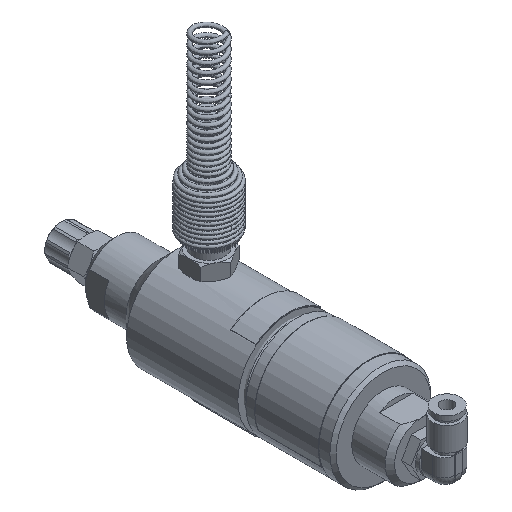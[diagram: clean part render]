
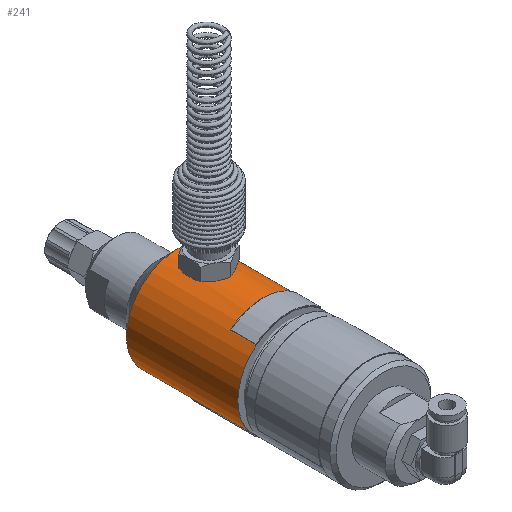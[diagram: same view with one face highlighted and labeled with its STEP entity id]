
A CAD part, isometric view. The second image highlights one B-rep face of the part: STEP entity #241.
In plain terms, the highlighted cylindrical face has radius 15.9 mm (diameter 31.8 mm), a full revolution.
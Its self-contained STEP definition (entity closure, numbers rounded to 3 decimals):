
#151=CARTESIAN_POINT('',(-15.9,0.0,0.0));
#152=VERTEX_POINT('',#151);
#153=CARTESIAN_POINT('',(0.0,0.0,0.0));
#154=DIRECTION('',(0.0,1.0,0.0));
#155=DIRECTION('',(1.0,0.0,0.0));
#156=AXIS2_PLACEMENT_3D('',#153,#154,#155);
#157=CIRCLE('',#156,15.9);
#158=EDGE_CURVE('',#152,#152,#157,.T.);
#174=CARTESIAN_POINT('',(0.0,0.0,0.0));
#175=DIRECTION('',(0.0,1.0,0.0));
#176=DIRECTION('',(1.0,0.0,0.0));
#177=AXIS2_PLACEMENT_3D('',#174,#175,#176);
#178=CYLINDRICAL_SURFACE('',#177,15.9);
#179=CARTESIAN_POINT('',(-15.9,35.1,0.0));
#180=VERTEX_POINT('',#179);
#181=CARTESIAN_POINT('',(0.0,35.1,0.0));
#182=DIRECTION('',(0.0,1.0,0.0));
#183=DIRECTION('',(1.0,0.0,0.0));
#184=AXIS2_PLACEMENT_3D('',#181,#182,#183);
#185=CIRCLE('',#184,15.9);
#186=EDGE_CURVE('',#180,#180,#185,.T.);
#187=ORIENTED_EDGE('',*,*,#186,.F.);
#188=EDGE_LOOP('',(#187));
#189=FACE_OUTER_BOUND('',#188,.T.);
#190=ORIENTED_EDGE('',*,*,#158,.T.);
#191=EDGE_LOOP('',(#190));
#192=FACE_BOUND('',#191,.T.);
#193=CARTESIAN_POINT('',(4.285,25.0,-15.312));
#194=VERTEX_POINT('',#193);
#195=CARTESIAN_POINT('',(-4.285,25.0,-15.312));
#196=VERTEX_POINT('',#195);
#197=CARTESIAN_POINT('',(4.285,25.0,-15.312));
#198=CARTESIAN_POINT('',(4.285,25.299,-15.312));
#199=CARTESIAN_POINT('',(4.225,25.885,-15.329));
#200=CARTESIAN_POINT('',(3.942,26.764,-15.405));
#201=CARTESIAN_POINT('',(3.482,27.55,-15.517));
#202=CARTESIAN_POINT('',(2.896,28.198,-15.639));
#203=CARTESIAN_POINT('',(2.171,28.731,-15.758));
#204=CARTESIAN_POINT('',(1.333,29.107,-15.852));
#205=CARTESIAN_POINT('',(0.44,29.293,-15.902));
#206=CARTESIAN_POINT('',(-0.439,29.293,-15.902));
#207=CARTESIAN_POINT('',(-1.334,29.107,-15.852));
#208=CARTESIAN_POINT('',(-2.172,28.731,-15.758));
#209=CARTESIAN_POINT('',(-2.896,28.198,-15.639));
#210=CARTESIAN_POINT('',(-3.482,27.55,-15.517));
#211=CARTESIAN_POINT('',(-3.942,26.762,-15.405));
#212=CARTESIAN_POINT('',(-4.225,25.885,-15.329));
#213=CARTESIAN_POINT('',(-4.285,25.298,-15.312));
#214=CARTESIAN_POINT('',(-4.285,25.0,-15.312));
#215=B_SPLINE_CURVE_WITH_KNOTS('',3,(#197,#198,#199,#200,#201,#202,#203,#204,#205,#206,#207,#208,#209,#210,#211,#212,#213,#214),.UNSPECIFIED.,.F.,.U.,(4,1,1,1,1,1,1,1,1,1,1,1,1,1,1,4),(0.0,0.067,0.133,0.2,0.267,0.333,0.4,0.467,0.533,0.6,0.667,0.733,0.8,0.867,0.933,1.0),.UNSPECIFIED.);
#216=EDGE_CURVE('',#194,#196,#215,.T.);
#217=ORIENTED_EDGE('',*,*,#216,.T.);
#218=CARTESIAN_POINT('',(-4.285,25.0,-15.312));
#219=CARTESIAN_POINT('',(-4.285,24.701,-15.312));
#220=CARTESIAN_POINT('',(-4.225,24.115,-15.329));
#221=CARTESIAN_POINT('',(-3.942,23.236,-15.405));
#222=CARTESIAN_POINT('',(-3.482,22.45,-15.517));
#223=CARTESIAN_POINT('',(-2.896,21.802,-15.639));
#224=CARTESIAN_POINT('',(-2.171,21.269,-15.758));
#225=CARTESIAN_POINT('',(-1.333,20.893,-15.852));
#226=CARTESIAN_POINT('',(-0.44,20.707,-15.902));
#227=CARTESIAN_POINT('',(0.439,20.707,-15.902));
#228=CARTESIAN_POINT('',(1.334,20.893,-15.852));
#229=CARTESIAN_POINT('',(2.172,21.269,-15.758));
#230=CARTESIAN_POINT('',(2.896,21.802,-15.639));
#231=CARTESIAN_POINT('',(3.482,22.45,-15.517));
#232=CARTESIAN_POINT('',(3.942,23.238,-15.405));
#233=CARTESIAN_POINT('',(4.225,24.115,-15.329));
#234=CARTESIAN_POINT('',(4.285,24.702,-15.312));
#235=CARTESIAN_POINT('',(4.285,25.0,-15.312));
#236=B_SPLINE_CURVE_WITH_KNOTS('',3,(#218,#219,#220,#221,#222,#223,#224,#225,#226,#227,#228,#229,#230,#231,#232,#233,#234,#235),.UNSPECIFIED.,.F.,.U.,(4,1,1,1,1,1,1,1,1,1,1,1,1,1,1,4),(0.0,0.067,0.133,0.2,0.267,0.333,0.4,0.467,0.533,0.6,0.667,0.733,0.8,0.867,0.933,1.0),.UNSPECIFIED.);
#237=EDGE_CURVE('',#196,#194,#236,.T.);
#238=ORIENTED_EDGE('',*,*,#237,.T.);
#239=EDGE_LOOP('',(#217,#238));
#240=FACE_BOUND('',#239,.T.);
#241=ADVANCED_FACE('',(#189,#192,#240),#178,.T.);
